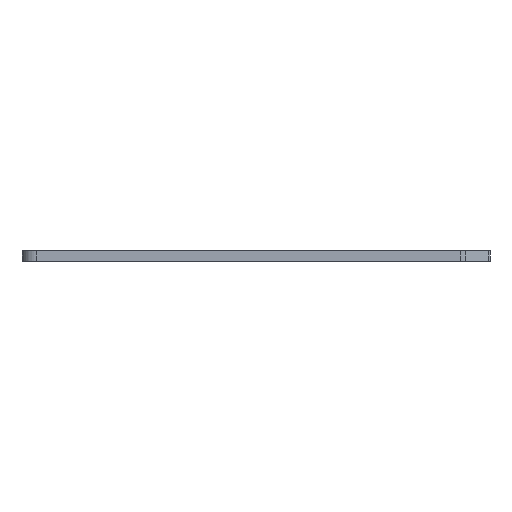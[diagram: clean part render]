
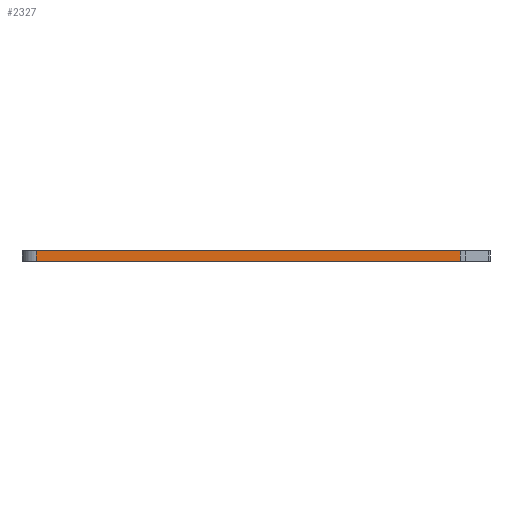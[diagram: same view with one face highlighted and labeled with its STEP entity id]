
A CAD part, front view. The second image highlights one B-rep face of the part: STEP entity #2327.
In plain terms, the highlighted planar face has unit normal (0, -1, 0).
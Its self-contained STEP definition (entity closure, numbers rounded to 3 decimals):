
#37=CARTESIAN_POINT('',(110.3,-45.996,-101.162));
#38=VERTEX_POINT('',#37);
#46=CARTESIAN_POINT('',(110.3,-45.996,-98.962));
#47=VERTEX_POINT('',#46);
#48=CARTESIAN_POINT('',(110.3,-45.996,-98.962));
#49=DIRECTION('',(0.,0.,-1.));
#50=VECTOR('',#49,2.2);
#51=LINE('',#48,#50);
#52=EDGE_CURVE('',#47,#38,#51,.T.);
#2297=CARTESIAN_POINT('',(156.616,-45.996,-100.062));
#2298=DIRECTION('',(-1.,0.,0.));
#2299=DIRECTION('',(0.,-1.,-0.));
#2300=AXIS2_PLACEMENT_3D('',#2297,#2299,#2298);
#2301=PLANE('',#2300);
#2302=ORIENTED_EDGE('',*,*,#52,.T.);
#2303=CARTESIAN_POINT('',(202.933,-45.996,-101.162));
#2304=VERTEX_POINT('',#2303);
#2305=CARTESIAN_POINT('',(202.933,-45.996,-101.162));
#2306=DIRECTION('',(-1.,0.,0.));
#2307=VECTOR('',#2306,92.633);
#2308=LINE('',#2305,#2307);
#2309=EDGE_CURVE('',#2304,#38,#2308,.T.);
#2310=ORIENTED_EDGE('E35',*,*,#2309,.F.);
#2311=CARTESIAN_POINT('',(202.933,-45.996,-98.962));
#2312=VERTEX_POINT('',#2311);
#2313=CARTESIAN_POINT('',(202.933,-45.996,-98.962));
#2314=DIRECTION('',(0.,0.,-1.));
#2315=VECTOR('',#2314,2.2);
#2316=LINE('',#2313,#2315);
#2317=EDGE_CURVE('',#2312,#2304,#2316,.T.);
#2318=ORIENTED_EDGE('E804',*,*,#2317,.F.);
#2319=CARTESIAN_POINT('',(110.3,-45.996,-98.962));
#2320=DIRECTION('',(1.,0.,0.));
#2321=VECTOR('',#2320,92.633);
#2322=LINE('',#2319,#2321);
#2323=EDGE_CURVE('',#47,#2312,#2322,.T.);
#2324=ORIENTED_EDGE('E317',*,*,#2323,.F.);
#2325=EDGE_LOOP('',(#2302,#2310,#2318,#2324));
#2326=FACE_OUTER_BOUND('',#2325,.T.);
#2327=ADVANCED_FACE('F267',(#2326),#2301,.T.);
